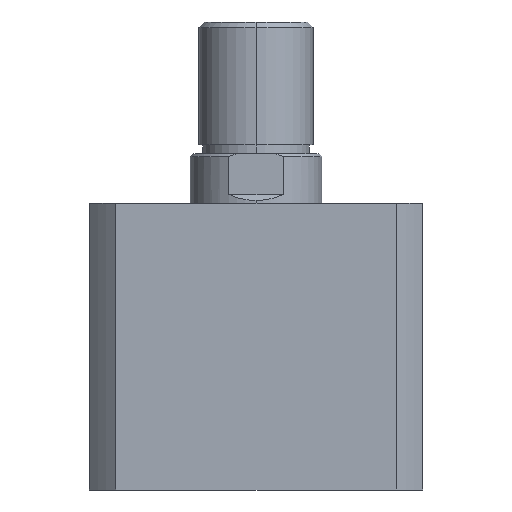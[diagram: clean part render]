
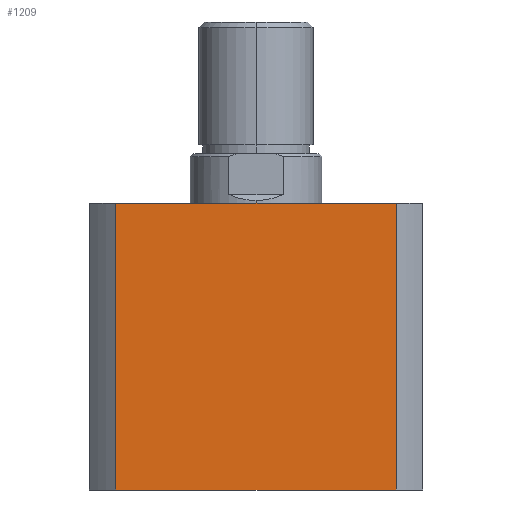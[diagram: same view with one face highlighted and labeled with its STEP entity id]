
A CAD part, left-side view. The second image highlights one B-rep face of the part: STEP entity #1209.
In plain terms, the highlighted planar face has unit normal (-1, 0, 0).
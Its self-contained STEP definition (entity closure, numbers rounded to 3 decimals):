
#42 = CARTESIAN_POINT ( 'NONE',  ( -57., 0., 0. ) ) ;
#44 = DIRECTION ( 'NONE',  ( 0., -1., 0. ) ) ;
#446 = DIRECTION ( 'NONE',  ( 1., 0., 0. ) ) ;
#479 = DIRECTION ( 'NONE',  ( 0., 0., -1. ) ) ;
#485 = PLANE ( 'NONE',  #1532 ) ;
#577 = CARTESIAN_POINT ( 'NONE',  ( -57., 0., 98. ) ) ;
#992 = VERTEX_POINT ( 'NONE', #1687 ) ;
#1209 = ADVANCED_FACE ( 'NONE', ( #3427 ), #485, .F. ) ;
#1532 = AXIS2_PLACEMENT_3D ( 'NONE', #577, #446, #479 ) ;
#1599 = EDGE_LOOP ( 'NONE', ( #3319, #3318, #4935, #4934 ) ) ;
#1687 = CARTESIAN_POINT ( 'NONE',  ( -57., -47.971, 0. ) ) ;
#1945 = CARTESIAN_POINT ( 'NONE',  ( -57., 47.971, 98. ) ) ;
#2077 = CARTESIAN_POINT ( 'NONE',  ( -57., -47.971, 98. ) ) ;
#2556 = EDGE_CURVE ( 'NONE', #2813, #992, #3156, .T. ) ;
#2588 = EDGE_CURVE ( 'NONE', #2757, #2813, #3197, .T. ) ;
#2590 = EDGE_CURVE ( 'NONE', #2798, #992, #3201, .T. ) ;
#2591 = EDGE_CURVE ( 'NONE', #2757, #2798, #3202, .T. ) ;
#2611 = CARTESIAN_POINT ( 'NONE',  ( -57., -47.971, 98. ) ) ;
#2612 = DIRECTION ( 'NONE',  ( 0., 0., -1. ) ) ;
#2619 = CARTESIAN_POINT ( 'NONE',  ( -57., 47.971, 98. ) ) ;
#2620 = DIRECTION ( 'NONE',  ( 0., 0., -1. ) ) ;
#2626 = CARTESIAN_POINT ( 'NONE',  ( -57., 0., 98. ) ) ;
#2627 = DIRECTION ( 'NONE',  ( 0., -1., 0. ) ) ;
#2757 = VERTEX_POINT ( 'NONE', #1945 ) ;
#2798 = VERTEX_POINT ( 'NONE', #2077 ) ;
#2813 = VERTEX_POINT ( 'NONE', #5085 ) ;
#3156 = LINE ( 'NONE', #42, #3160 ) ;
#3160 = VECTOR ( 'NONE', #44, 1000. ) ;
#3197 = LINE ( 'NONE', #2619, #3200 ) ;
#3200 = VECTOR ( 'NONE', #2620, 1000. ) ;
#3201 = LINE ( 'NONE', #2611, #3203 ) ;
#3202 = LINE ( 'NONE', #2626, #3205 ) ;
#3203 = VECTOR ( 'NONE', #2612, 1000. ) ;
#3205 = VECTOR ( 'NONE', #2627, 1000. ) ;
#3318 = ORIENTED_EDGE ( 'NONE', *, *, #2590, .F. ) ;
#3319 = ORIENTED_EDGE ( 'NONE', *, *, #2556, .T. ) ;
#3427 = FACE_OUTER_BOUND ( 'NONE', #1599, .T. ) ;
#4934 = ORIENTED_EDGE ( 'NONE', *, *, #2588, .T. ) ;
#4935 = ORIENTED_EDGE ( 'NONE', *, *, #2591, .F. ) ;
#5085 = CARTESIAN_POINT ( 'NONE',  ( -57., 47.971, 0. ) ) ;
